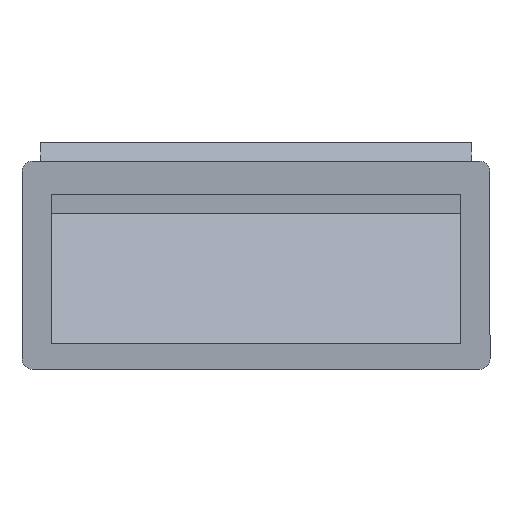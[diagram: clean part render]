
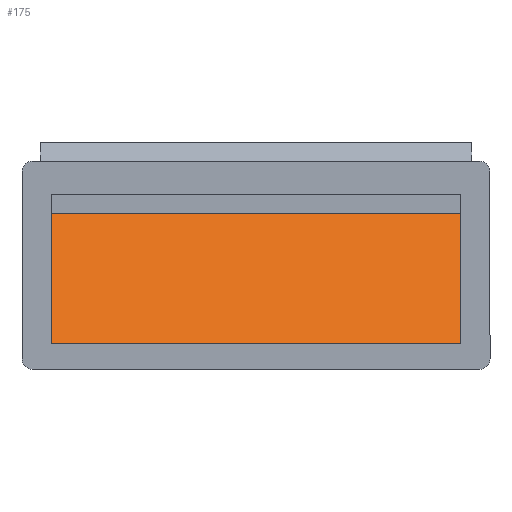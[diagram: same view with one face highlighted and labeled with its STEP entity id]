
A CAD part, left-side view. The second image highlights one B-rep face of the part: STEP entity #175.
In plain terms, the highlighted planar face has unit normal (-0.866, 0, 0.5).
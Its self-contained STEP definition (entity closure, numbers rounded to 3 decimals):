
#136=CARTESIAN_POINT('',(-8.,-39.35,-16.758));
#137=DIRECTION('',(0.866,0.,-0.5));
#138=DIRECTION('',(-0.5,0.,-0.866));
#139=AXIS2_PLACEMENT_3D('',#136,#137,#138);
#140=PLANE('',#139);
#141=CARTESIAN_POINT('',(-8.,39.35,-16.758));
#142=VERTEX_POINT('',#141);
#143=CARTESIAN_POINT('',(6.35,39.35,8.097));
#144=VERTEX_POINT('',#143);
#145=CARTESIAN_POINT('',(-8.,39.35,-16.758));
#146=DIRECTION('',(0.5,0.0,0.866));
#147=VECTOR('',#146,28.7);
#148=LINE('',#145,#147);
#149=EDGE_CURVE('',#142,#144,#148,.T.);
#150=ORIENTED_EDGE('',*,*,#149,.F.);
#151=CARTESIAN_POINT('',(-8.,-39.35,-16.758));
#152=VERTEX_POINT('',#151);
#153=CARTESIAN_POINT('',(-8.,-39.35,-16.758));
#154=DIRECTION('',(0.0,1.0,0.0));
#155=VECTOR('',#154,78.7);
#156=LINE('',#153,#155);
#157=EDGE_CURVE('',#152,#142,#156,.T.);
#158=ORIENTED_EDGE('',*,*,#157,.F.);
#159=CARTESIAN_POINT('',(6.35,-39.35,8.097));
#160=VERTEX_POINT('',#159);
#161=CARTESIAN_POINT('',(-8.,-39.35,-16.758));
#162=DIRECTION('',(0.5,0.0,0.866));
#163=VECTOR('',#162,28.7);
#164=LINE('',#161,#163);
#165=EDGE_CURVE('',#152,#160,#164,.T.);
#166=ORIENTED_EDGE('',*,*,#165,.T.);
#167=CARTESIAN_POINT('',(6.35,-39.35,8.097));
#168=DIRECTION('',(0.0,1.0,0.0));
#169=VECTOR('',#168,78.7);
#170=LINE('',#167,#169);
#171=EDGE_CURVE('',#160,#144,#170,.T.);
#172=ORIENTED_EDGE('',*,*,#171,.T.);
#173=EDGE_LOOP('',(#150,#158,#166,#172));
#174=FACE_OUTER_BOUND('',#173,.T.);
#175=ADVANCED_FACE('',(#174),#140,.F.);
